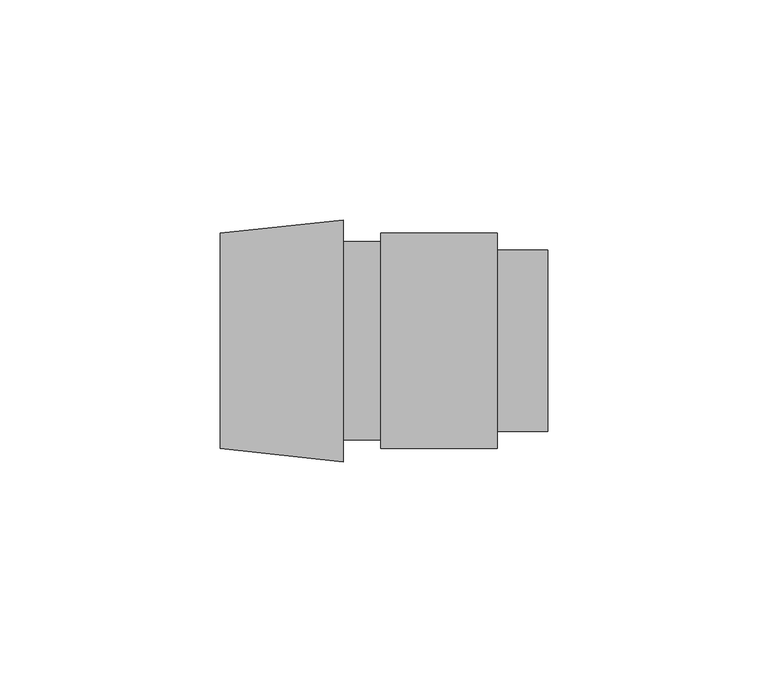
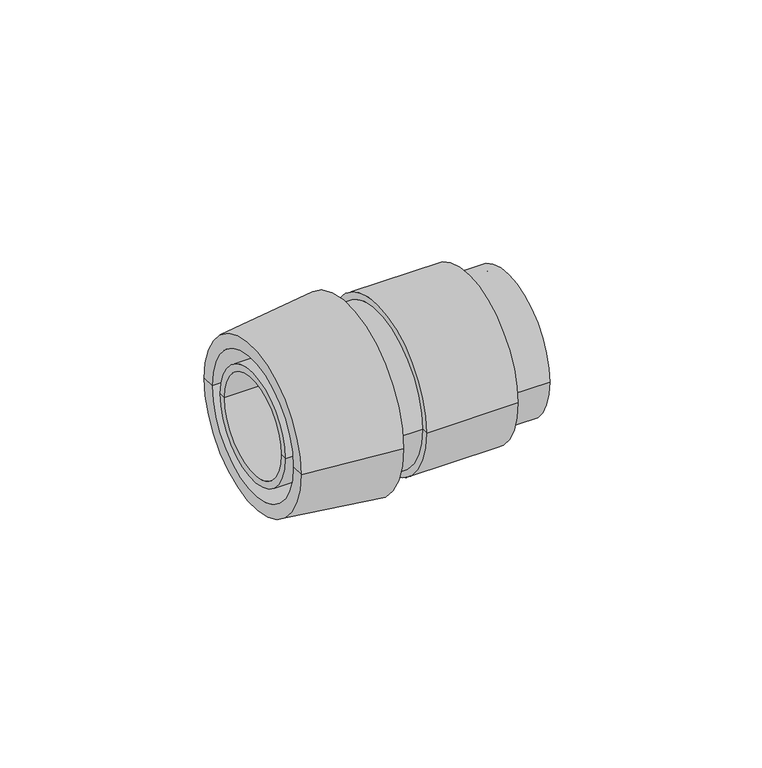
"""IFC4 building model written with IfcOpenShell, lengths in millimetres: cable carrier fitting geometry, КНС_ПереходникАрмированнаяТрубаКоробка_IP65_DKC : Коробка."""

from ifc_helpers import new_model, si_unit, frame, origin, place, context, project, spatial, polyline, circle_curve, source, transform, mapped, element, save
from ifc_brep_helpers import plane_surface, cylinder_surface, revolved_surface, advanced_brep


def cable_carrier_fitting_79252797(model_context):
    return source(origin(), model_context, "Body", "AdvancedBrep", [
        advanced_brep(
        [(46.5, -18.5353846, 0.0), (46.5, 18.5353846, 0.0), (0.0, 18.5353846, 0.0), (0.0, -18.5353846, 0.0), (46.5, -20.6, 0.0), (46.5, 20.6, 0.0), (35.0, -20.6, 0.0), (35.0, 20.6, 0.0), (35.0, -24.5, 0.0), (35.0, 24.5, 0.0), (8.5, -24.5, 0.0), (8.5, 24.5, 0.0), (8.5, -22.55, 0.0), (8.5, 22.55, 0.0), (0.0, -22.55, 0.0), (0.0, 22.55, 0.0)],
        [
            (0, 1, circle_curve(frame((46.5, 0.0, 0.0), z_axis=(1.0, 0.0, 0.0), x_axis=(0.0, 1.0, 0.0)), 18.5353846)),
            (1, 2),
            (2, 3, circle_curve(frame((0.0, 0.0, 0.0), z_axis=(-1.0, 0.0, 0.0), x_axis=(0.0, 1.0, 0.0)), 18.5353846)),
            (3, 0),
            (1, 0, circle_curve(frame((46.5, 0.0, 0.0), z_axis=(1.0, 0.0, 0.0), x_axis=(0.0, 1.0, 0.0)), 18.5353846)),
            (3, 2, circle_curve(frame((0.0, 0.0, 0.0), z_axis=(-1.0, 0.0, 0.0), x_axis=(0.0, 1.0, 0.0)), 18.5353846)),
            (4, 5, circle_curve(frame((46.5, 0.0, 0.0), z_axis=(1.0, 0.0, 0.0), x_axis=(0.0, 1.0, 0.0)), 20.6)),
            (5, 1),
            (0, 4),
            (5, 4, circle_curve(frame((46.5, 0.0, 0.0), z_axis=(1.0, 0.0, 0.0), x_axis=(0.0, 1.0, 0.0)), 20.6)),
            (6, 7, circle_curve(frame((35.0, 0.0, 0.0), z_axis=(1.0, 0.0, 0.0), x_axis=(0.0, 1.0, 0.0)), 20.6)),
            (7, 5),
            (4, 6),
            (7, 6, circle_curve(frame((35.0, 0.0, 0.0), z_axis=(1.0, 0.0, 0.0), x_axis=(0.0, 1.0, 0.0)), 20.6)),
            (8, 9, circle_curve(frame((35.0, 0.0, 0.0), z_axis=(1.0, 0.0, 0.0), x_axis=(0.0, 1.0, 0.0)), 24.5)),
            (9, 7),
            (6, 8),
            (9, 8, circle_curve(frame((35.0, 0.0, 0.0), z_axis=(1.0, 0.0, 0.0), x_axis=(0.0, 1.0, 0.0)), 24.5)),
            (10, 11, circle_curve(frame((8.5, 0.0, 0.0), z_axis=(1.0, 0.0, 0.0), x_axis=(0.0, 1.0, 0.0)), 24.5)),
            (11, 9),
            (8, 10),
            (11, 10, circle_curve(frame((8.5, 0.0, 0.0), z_axis=(1.0, 0.0, 0.0), x_axis=(0.0, 1.0, 0.0)), 24.5)),
            (12, 13, circle_curve(frame((8.5, 0.0, 0.0), z_axis=(1.0, 0.0, 0.0), x_axis=(0.0, 1.0, 0.0)), 22.55)),
            (13, 11),
            (10, 12),
            (13, 12, circle_curve(frame((8.5, 0.0, 0.0), z_axis=(1.0, 0.0, 0.0), x_axis=(0.0, 1.0, 0.0)), 22.55)),
            (14, 15, circle_curve(frame((0.0, 0.0, 0.0), z_axis=(1.0, 0.0, 0.0), x_axis=(0.0, 1.0, 0.0)), 22.55)),
            (15, 13),
            (12, 14),
            (15, 14, circle_curve(frame((0.0, 0.0, 0.0), z_axis=(1.0, 0.0, 0.0), x_axis=(0.0, 1.0, 0.0)), 22.55)),
            (2, 15),
            (14, 3),
        ],
        [
            revolved_surface(polyline([(0.0, 18.5353846, 0.0), (46.5, 18.5353846, 0.0)]), (1535.0, 0.0, 0.0), (-1.0, 0.0, 0.0)),
            plane_surface(frame((46.5, 0.0, 0.0), z_axis=(1.0, 0.0, 0.0), x_axis=(0.0, 1.0, 0.0))),
            cylinder_surface(frame((1535.0, 0.0, 0.0), z_axis=(-1.0, 0.0, 0.0), x_axis=(0.0, 1.0, 0.0)), 20.6),
            plane_surface(frame((35.0, 0.0, 0.0), z_axis=(1.0, 0.0, 0.0), x_axis=(0.0, 1.0, 0.0))),
            cylinder_surface(frame((1535.0, 0.0, 0.0), z_axis=(-1.0, 0.0, 0.0), x_axis=(0.0, 1.0, 0.0)), 24.5),
            plane_surface(frame((8.5, 0.0, 0.0), z_axis=(-1.0, 0.0, 0.0), x_axis=(0.0, 1.0, 0.0))),
            cylinder_surface(frame((1535.0, 0.0, 0.0), z_axis=(-1.0, 0.0, 0.0), x_axis=(0.0, 1.0, 0.0)), 22.55),
            plane_surface(frame((0.0, 0.0, 0.0), z_axis=(-1.0, 0.0, 0.0), x_axis=(0.0, 1.0, 0.0))),
        ],
        [
            (0, [[1, 2, 3, 4]]),
            (0, [[5, -4, 6, -2]]),
            (1, [[7, 8, -1, 9]]),
            (1, [[10, -9, -5, -8]]),
            (2, [[11, 12, -7, 13]]),
            (2, [[14, -13, -10, -12]]),
            (3, [[15, 16, -11, 17]]),
            (3, [[18, -17, -14, -16]]),
            (4, [[19, 20, -15, 21]]),
            (4, [[22, -21, -18, -20]]),
            (5, [[23, 24, -19, 25]]),
            (5, [[26, -25, -22, -24]]),
            (6, [[27, 28, -23, 29]]),
            (6, [[30, -29, -26, -28]]),
            (7, [[-3, 31, -27, 32]]),
            (7, [[-6, -32, -30, -31]]),
        ],
    ),
        advanced_brep(
        [(0.0, -27.5, 0.0), (0.0, 27.5, 0.0), (0.0, 20.6, 0.0), (0.0, -20.6, 0.0), (-28.0, -24.5, 0.0), (-28.0, 24.5, 0.0), (-28.0, -20.6, 0.0), (-28.0, 20.6, 0.0)],
        [
            (0, 1, circle_curve(frame((0.0, 0.0, 0.0), z_axis=(1.0, 0.0, 0.0), x_axis=(0.0, 1.0, 0.0)), 27.5)),
            (1, 2),
            (2, 3, circle_curve(frame((0.0, 0.0, 0.0), z_axis=(-1.0, 0.0, 0.0), x_axis=(0.0, 1.0, 0.0)), 20.6)),
            (3, 0),
            (1, 0, circle_curve(frame((0.0, 0.0, 0.0), z_axis=(1.0, 0.0, 0.0), x_axis=(0.0, 1.0, 0.0)), 27.5)),
            (3, 2, circle_curve(frame((0.0, 0.0, 0.0), z_axis=(-1.0, 0.0, 0.0), x_axis=(0.0, 1.0, 0.0)), 20.6)),
            (4, 5, circle_curve(frame((-28.0, 0.0, 0.0), z_axis=(1.0, 0.0, 0.0), x_axis=(0.0, 1.0, 0.0)), 24.5)),
            (5, 1),
            (0, 4),
            (5, 4, circle_curve(frame((-28.0, 0.0, 0.0), z_axis=(1.0, 0.0, 0.0), x_axis=(0.0, 1.0, 0.0)), 24.5)),
            (6, 7, circle_curve(frame((-28.0, 0.0, 0.0), z_axis=(1.0, 0.0, 0.0), x_axis=(0.0, 1.0, 0.0)), 20.6)),
            (7, 5),
            (4, 6),
            (7, 6, circle_curve(frame((-28.0, 0.0, 0.0), z_axis=(1.0, 0.0, 0.0), x_axis=(0.0, 1.0, 0.0)), 20.6)),
            (2, 7),
            (6, 3),
        ],
        [
            plane_surface(frame((0.0, 0.0, 0.0), z_axis=(1.0, 0.0, 0.0), x_axis=(0.0, 1.0, 0.0))),
            revolved_surface(polyline([(0.0, 27.5, 0.0), (-28.0, 24.5, 0.0)]), (1535.0, 0.0, 0.0), (-1.0, 0.0, 0.0)),
            plane_surface(frame((-28.0, 0.0, 0.0), z_axis=(-1.0, 0.0, 0.0), x_axis=(0.0, 1.0, 0.0))),
            revolved_surface(polyline([(-28.0, 20.6, 0.0), (0.0, 20.6, 0.0)]), (1535.0, 0.0, 0.0), (-1.0, 0.0, 0.0)),
        ],
        [
            (0, [[1, 2, 3, 4]]),
            (0, [[5, -4, 6, -2]]),
            (1, [[7, 8, -1, 9]]),
            (1, [[10, -9, -5, -8]]),
            (2, [[11, 12, -7, 13]]),
            (2, [[14, -13, -10, -12]]),
            (3, [[-3, 15, -11, 16]]),
            (3, [[-6, -16, -14, -15]]),
        ],
    ),
        advanced_brep(
        [(-28.0, -16.5, 0.0), (-28.0, 16.5, 0.0), (0.0, 16.5, 0.0), (0.0, -16.5, 0.0), (-28.0, -14.5, 0.0), (-28.0, 14.5, 0.0), (0.0, -14.5, 0.0), (0.0, 14.5, 0.0)],
        [
            (0, 1, circle_curve(frame((-28.0, 0.0, 0.0), z_axis=(1.0, 0.0, 0.0), x_axis=(0.0, 1.0, 0.0)), 16.5)),
            (1, 2),
            (2, 3, circle_curve(frame((0.0, 0.0, 0.0), z_axis=(-1.0, 0.0, 0.0), x_axis=(0.0, 1.0, 0.0)), 16.5)),
            (3, 0),
            (1, 0, circle_curve(frame((-28.0, 0.0, 0.0), z_axis=(1.0, 0.0, 0.0), x_axis=(0.0, 1.0, 0.0)), 16.5)),
            (3, 2, circle_curve(frame((0.0, 0.0, 0.0), z_axis=(-1.0, 0.0, 0.0), x_axis=(0.0, 1.0, 0.0)), 16.5)),
            (4, 5, circle_curve(frame((-28.0, 0.0, 0.0), z_axis=(1.0, 0.0, 0.0), x_axis=(0.0, 1.0, 0.0)), 14.5)),
            (5, 1),
            (0, 4),
            (5, 4, circle_curve(frame((-28.0, 0.0, 0.0), z_axis=(1.0, 0.0, 0.0), x_axis=(0.0, 1.0, 0.0)), 14.5)),
            (6, 7, circle_curve(frame((0.0, 0.0, 0.0), z_axis=(1.0, 0.0, 0.0), x_axis=(0.0, 1.0, 0.0)), 14.5)),
            (7, 5),
            (4, 6),
            (7, 6, circle_curve(frame((0.0, 0.0, 0.0), z_axis=(1.0, 0.0, 0.0), x_axis=(0.0, 1.0, 0.0)), 14.5)),
            (2, 7),
            (6, 3),
        ],
        [
            cylinder_surface(frame((1535.0, 0.0, 0.0), z_axis=(-1.0, 0.0, 0.0), x_axis=(0.0, 1.0, 0.0)), 16.5),
            plane_surface(frame((-28.0, 0.0, 0.0), z_axis=(-1.0, 0.0, 0.0), x_axis=(0.0, 1.0, 0.0))),
            revolved_surface(polyline([(-28.0, 14.5, 0.0), (0.0, 14.5, 0.0)]), (1535.0, 0.0, 0.0), (-1.0, 0.0, 0.0)),
            plane_surface(frame((0.0, 0.0, 0.0), z_axis=(1.0, 0.0, 0.0), x_axis=(0.0, 1.0, 0.0))),
        ],
        [
            (0, [[1, 2, 3, 4]]),
            (0, [[5, -4, 6, -2]]),
            (1, [[7, 8, -1, 9]]),
            (1, [[10, -9, -5, -8]]),
            (2, [[11, 12, -7, 13]]),
            (2, [[14, -13, -10, -12]]),
            (3, [[-3, 15, -11, 16]]),
            (3, [[-6, -16, -14, -15]]),
        ],
    ),
    ])


if __name__ == "__main__":
    model = new_model("IFC4")
    model_context = context("Model", 3, world=origin())
    ifc_project = project(units=[si_unit("LENGTHUNIT", "METRE", prefix="MILLI")], contexts=[model_context])
    site = spatial("IfcSite", under=ifc_project)
    building = spatial("IfcBuilding", under=site)
    placement = place(None, origin())
    cable_carrier_fitting_shape = cable_carrier_fitting_79252797(model_context)
    element("IfcCableCarrierFitting", 1, ObjectType="КНС_ПереходникАрмированнаяТрубаКоробка_IP65_DKC : Коробка", at=placement, inside=building, context=model_context, shape_type="MappedRepresentation", body=[
        mapped(cable_carrier_fitting_shape, transform((0.0, 0.0, 0.0), x_axis=(1.0, 0.0, 0.0), y_axis=(0.0, 1.0, 0.0), z_axis=(0.0, 0.0, 1.0))),
    ])
    save(model, "model.ifc")
